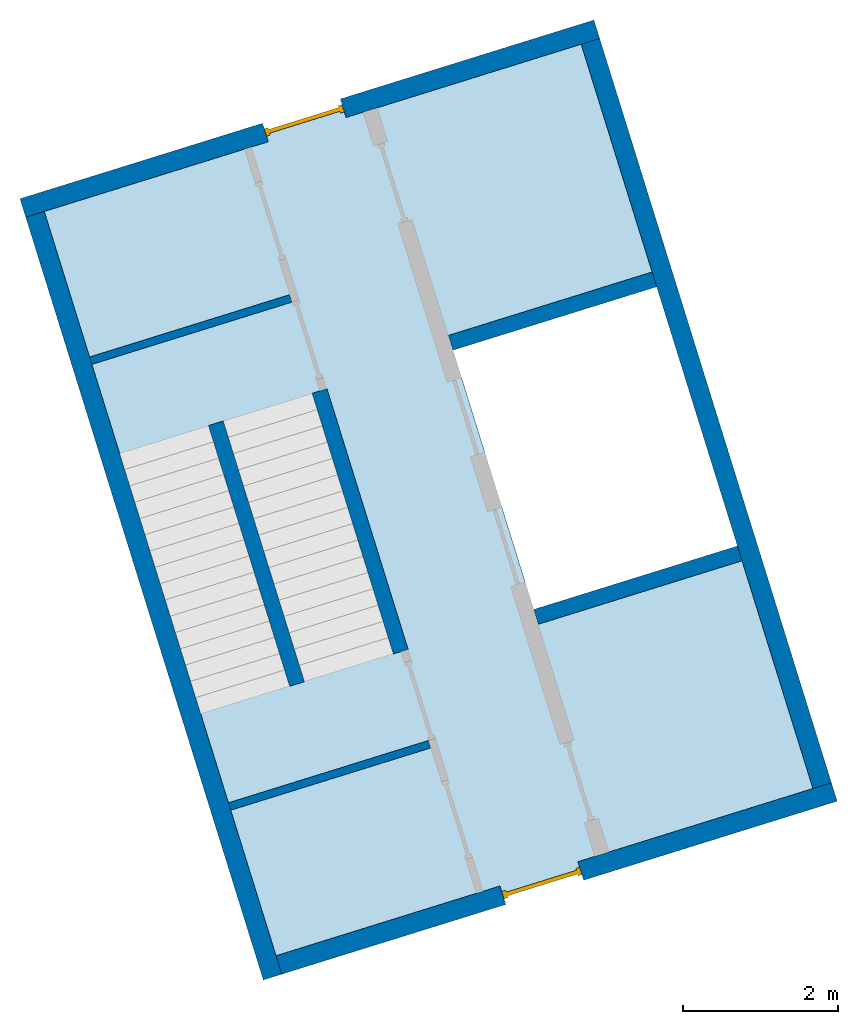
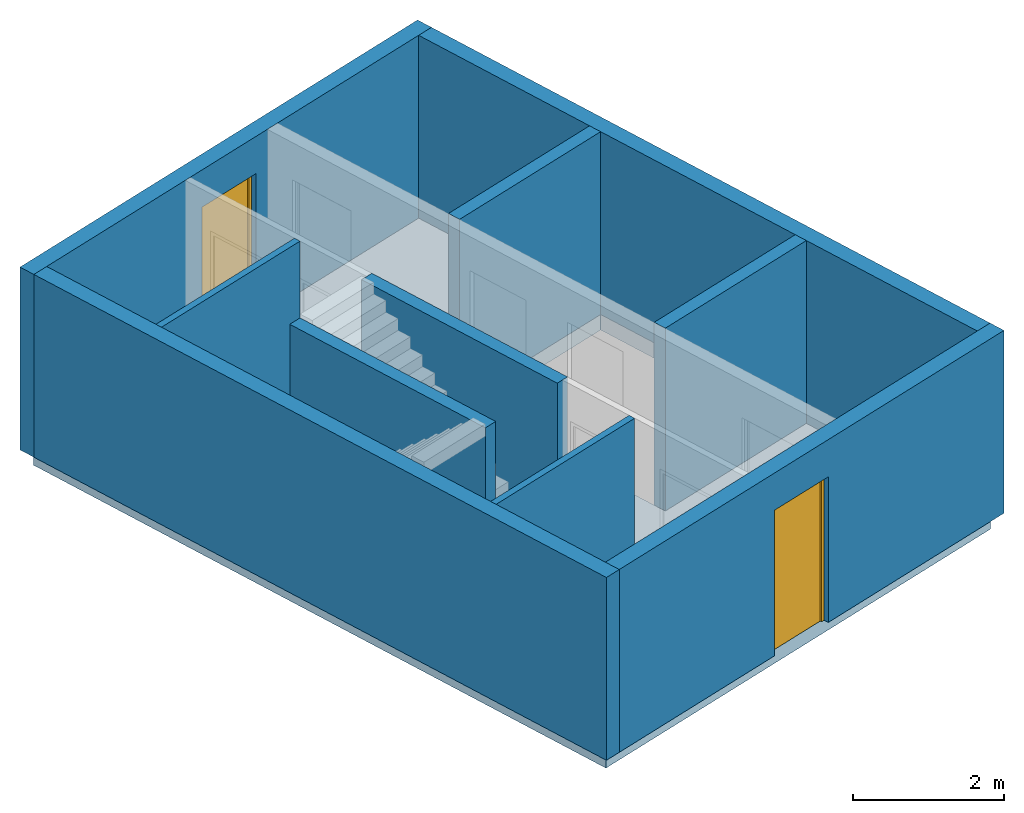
# One storey, part 1 of 3: 10 walls, 2 doors, 1 slab, 4 openings.
"""IFC4 building model written with IfcOpenShell, lengths in metres."""

from ifc_helpers import new_model, entity, si_unit, converted_unit, direction, frame, origin, place, context, subcontext, project, spatial, indexed_curve, outline, extrude, polygons, source, transform, mapped, material, constituent, constituent_set, type_object, type_shapes, element, fill, save


model = new_model("IFC4")

# Units and contexts
model_context = context("Model", 3, precision=1e-05, world=origin(), true_north=direction((6.12323399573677e-17, 1.0)))
body_context = subcontext(model_context, "Body", "Model", "MODEL_VIEW")
ifc_project = project(units=[si_unit("LENGTHUNIT", "METRE"), si_unit("AREAUNIT", "SQUARE_METRE"), si_unit("VOLUMEUNIT", "CUBIC_METRE"), converted_unit("PLANEANGLEUNIT", "DEGREE", entity("IfcPlaneAngleMeasure", 0.0174532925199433), si_unit("PLANEANGLEUNIT", "RADIAN"), dimensions=[0, 0, 0, 0, 0, 0, 0])], contexts=[model_context])

# Site, building, storey
site_placement = place(None, frame((13.1347999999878, 11.9886000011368, 0.0), z_axis=(0.0, 0.0, 1.0), x_axis=(0.954770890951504, 0.297342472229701, 0.0)))
site = spatial("IfcSite", under=ifc_project, at=site_placement, Name="Schiehaven", CompositionType="ELEMENT")
building_placement = place(site_placement, origin())
building = spatial("IfcBuilding", under=site, at=building_placement, Name="VORM huis", CompositionType="ELEMENT")
storey_placement = place(building_placement, frame((0.0, 0.0, -3.2)))
storey = spatial("IfcBuildingStorey", under=building, at=storey_placement, Name="-1 kelder", CompositionType="ELEMENT", Elevation=-3.2)

# Slab, opening
ifc_material_1 = material(Name="beton_gewapend_ihw", Category="Miscellaneous")
slab_type = type_object("IfcSlabType", Name="Floor:13_FL_funderingvloer 250mm", PredefinedType="FLOOR", material=ifc_material_1)
slab_placement = place(storey_placement, origin())
slab = element("IfcSlab", 1, at=slab_placement, inside=storey, type_object=slab_type, material=ifc_material_1, Name="Funderingvloer", ObjectType="Vloer", PredefinedType="FLOOR", context=body_context, shape_type="SweptSolid", body=[
    extrude(outline(indexed_curve([(-3.75000000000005, -5.14999999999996), (3.75000000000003, -5.14999999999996), (3.75000000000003, 5.14999999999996), (-3.75000000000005, 5.14999999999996), (-3.75000000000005, -5.14999999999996)], self_intersect=False), holes=[indexed_curve([(-3.62500000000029, 1.75000000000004), (-0.875000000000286, 1.75000000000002), (-0.875000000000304, -1.74999999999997), (-3.62500000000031, -1.74999999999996), (-3.62500000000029, 1.75000000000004)], self_intersect=False)]), frame((68.7500000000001, 17.0499999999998, -0.25), z_axis=(0.0, 0.0, 1.0), x_axis=(-1.0, 0.0, 0.0)), (0.0, 0.0, 1.0), 0.25),
])
opening_1_placement = place(slab_placement, origin())
element("IfcOpeningElement", 2, at=opening_1_placement, cuts=slab, Name="Funderingvloer", PredefinedType="OPENING", context=body_context, shape_type="SweptSolid", body=[
    extrude(outline(indexed_curve([(-1.75, -1.375), (1.75, -1.375), (1.75, 1.37500000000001), (-1.75, 1.37500000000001), (-1.75, -1.375)], self_intersect=False)), frame((71.0, 17.0499999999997, -0.25), z_axis=(0.0, 0.0, 1.0), x_axis=(0.0, 1.0, 0.0)), (0.0, 0.0, 1.0), 0.25),
])

# Walls
wall_type_1 = type_object("IfcWallType", Name="Basic Wall:28_WA_skelet_wand 250mm_gen", PredefinedType="STANDARD")
wall_1_placement = place(storey_placement, frame((72.5000000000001, 22.0749999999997, 0.0), z_axis=(0.0, 0.0, 1.0), x_axis=(0.0, -1.0, 0.0)))
element("IfcWall", 3, at=wall_1_placement, inside=storey, type_object=wall_type_1, material=ifc_material_1, Name="Constructieve wand", ObjectType="Wand", PredefinedType="NOTDEFINED", context=body_context, shape_type="SweptSolid", body=[
    extrude(outline(indexed_curve([(10.0499999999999, 0.124999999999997), (-1.06670372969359e-15, 0.124999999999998), (1.06670372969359e-15, -0.124999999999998), (10.0499999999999, -0.124999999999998), (10.0499999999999, 0.124999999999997)], self_intersect=False)), origin(), (0.0, 0.0, 1.0), 2.95),
])
wall_2_placement = place(storey_placement, frame((65.0, 11.7749999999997, 0.0), z_axis=(0.0, 0.0, 1.0), x_axis=(0.0, 1.0, 0.0)))
element("IfcWall", 4, at=wall_2_placement, inside=storey, type_object=wall_type_1, material=ifc_material_1, Name="Constructieve wand", ObjectType="Wand", PredefinedType="NOTDEFINED", context=body_context, shape_type="SweptSolid", body=[
    extrude(outline(indexed_curve([(10.3, 0.124999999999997), (-1.47058987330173e-15, 0.124999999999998), (-6.95144385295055e-16, -0.124999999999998), (10.3, -0.124999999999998), (10.3, 0.124999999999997)], self_intersect=False)), origin(), (0.0, 0.0, 1.0), 2.95),
])

# Wall, opening, door
wall_3_placement = place(storey_placement, frame((65.125, 11.8999999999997, 0.0)))
wall_3 = element("IfcWall", 5, at=wall_3_placement, inside=storey, type_object=wall_type_1, material=ifc_material_1, Name="Constructieve wand", ObjectType="Wand", PredefinedType="NOTDEFINED", context=body_context, shape_type="Tessellation", body=[
    polygons([(-1.2189769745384e-14, -0.125, 0.0), (3.02500000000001, -0.125, 0.0), (3.02500000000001, -0.125, 2.34999999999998), (4.07500000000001, -0.125, 2.34999999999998), (4.07500000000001, -0.125, 0.0), (7.49999999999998, -0.125, 0.0), (7.49999999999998, -0.125, 2.95), (-1.2189769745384e-14, -0.125, 2.95), (3.02500000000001, 0.125, 2.34999999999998), (3.02500000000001, 0.125, 0.0), (-1.28164288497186e-14, 0.125, 0.0), (4.50944521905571e-15, 0.125, 2.95), (7.24999999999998, 0.125, 2.95), (7.49999999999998, 0.125, 2.95), (7.49999999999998, 0.125, 0.0), (7.24999999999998, 0.125, 0.0), (4.07500000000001, 0.125, 0.0), (4.07500000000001, 0.125, 2.34999999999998)], [[[1, 2, 3, 4, 5, 6, 7, 8]], [[9, 10, 11, 12, 13, 14, 15, 16, 17, 18]], [[11, 10, 2, 1]], [[8, 7, 14, 13, 12]], [[1, 8, 12, 11]], [[7, 6, 15, 14]], [[5, 4, 18, 17]], [[3, 2, 10, 9]], [[4, 3, 9, 18]], [[17, 16, 15, 6, 5]]], closed=True),
])
opening_2_placement = place(wall_3_placement, frame((3.02500000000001, -0.125000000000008, 0.0)))
opening_2 = element("IfcOpeningElement", 6, at=opening_2_placement, cuts=wall_3, Name="Vluchtdeur", PredefinedType="OPENING", context=body_context, shape_type="SweptSolid", body=[
    extrude(outline(indexed_curve([(2.34999999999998, 1.05), (0.0, 1.05), (0.0, -4.24117840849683e-30), (2.34999999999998, -4.24117840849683e-30), (2.34999999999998, 1.05)], self_intersect=False)), frame((0.0, 0.0, 0.0), z_axis=(0.0, 1.0, 0.0), x_axis=(0.0, 0.0, 1.0)), (0.0, 0.0, 1.0), 0.25),
])
ifc_material_2 = material(Name="PD_a_binnenwandopeningen", Category="Miscellaneous")
ifc_constituent_1 = constituent(ifc_material_2, Name="PD_a_binnenwandopeningen", Category="Miscellaneous")
ifc_material_3 = material(Name="metaal_aluminium_ntb", Category="Miscellaneous")
ifc_constituent_2 = constituent(ifc_material_3, Name="metaal_aluminium_ntb", Category="Miscellaneous")
ifc_constituent_set_1 = constituent_set(constituents=[ifc_constituent_1, ifc_constituent_2])
ifc_constituent_3 = constituent(ifc_material_2, Name="PD_a_binnenwandopeningen", Category="Miscellaneous")
ifc_constituent_4 = constituent(ifc_material_3, Name="Panel", Category="Miscellaneous")
ifc_constituent_set_2 = constituent_set(constituents=[ifc_constituent_3, ifc_constituent_4])
door_type = type_object("IfcDoorType", Name="32_DO_binnendeur enkel:binnendeur zelfsluitend 30min", OperationType="NOTDEFINED", PredefinedType="DOOR", material=ifc_constituent_set_2)
shared_shape = source(origin(), body_context, "Body", "SweptSolid", [
    extrude(outline(indexed_curve([(-1.16249999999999, -0.525000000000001), (1.18749999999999, -0.525), (1.18749999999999, 0.525000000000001), (-1.16249999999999, 0.525000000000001), (-1.16249999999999, 0.475), (1.13749999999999, 0.475), (1.13749999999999, -0.475), (-1.16249999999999, -0.475), (-1.16249999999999, -0.525000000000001)], self_intersect=False)), frame((0.525000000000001, 0.0749999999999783, 1.16249999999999), z_axis=(0.0, 1.0, 0.0), x_axis=(0.0, 0.0, 1.0)), (0.0, 0.0, 1.0), 0.1),
    extrude(outline(indexed_curve([(-0.025, -0.475), (0.025, -0.475), (0.025, 0.475), (-0.025, 0.475), (-0.025, -0.475)], self_intersect=False)), frame((0.525000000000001, 0.12499999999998, 0.0), z_axis=(0.0, 0.0, 1.0), x_axis=(0.0, 1.0, 0.0)), (0.0, 0.0, 1.0), 2.29999999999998),
])
type_shapes(door_type, [shared_shape])
door_1_placement = place(opening_2_placement, origin())
door_1 = element("IfcDoor", 7, at=door_1_placement, inside=storey, type_object=door_type, material=ifc_constituent_set_1, Name="Vluchtdeur", ObjectType="Deur", OperationType="NOTDEFINED", OverallHeight=2.34999999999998, OverallWidth=1.05, PredefinedType="DOOR", context=body_context, shape_type="MappedRepresentation", body=[
    mapped(shared_shape, transform((0.0, 0.0, 0.0), scale=1.0)),
])
fill(opening_2, door_1)

wall_4_placement = place(storey_placement, frame((64.8750000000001, 22.1999999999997, 0.0)))
wall_4 = element("IfcWall", 8, at=wall_4_placement, inside=storey, type_object=wall_type_1, material=ifc_material_1, Name="Constructieve wand", ObjectType="Wand", PredefinedType="NOTDEFINED", context=body_context, shape_type="Tessellation", body=[
    polygons([(4.3249999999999, -0.124999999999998, 2.34999999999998), (4.3249999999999, -0.124999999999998, 0.0), (7.49999999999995, -0.124999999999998, 0.0), (7.74999999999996, -0.124999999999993, 0.0), (7.74999999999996, -0.124999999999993, 2.95), (7.49999999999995, -0.124999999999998, 2.95), (0.250000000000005, -0.124999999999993, 2.95), (1.6598752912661e-15, -0.124999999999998, 2.95), (1.6598752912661e-15, -0.124999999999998, 0.0), (0.250000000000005, -0.124999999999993, 0.0), (3.2749999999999, -0.124999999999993, 0.0), (3.2749999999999, -0.124999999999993, 2.34999999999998), (7.74999999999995, 0.125000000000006, 0.0), (4.3249999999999, 0.125000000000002, 0.0), (4.3249999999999, 0.125000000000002, 2.34999999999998), (3.2749999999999, 0.125000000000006, 2.34999999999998), (3.2749999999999, 0.125000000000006, 0.0), (1.62575232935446e-14, 0.125000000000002, 0.0), (1.62575232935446e-14, 0.125000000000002, 2.95), (7.74999999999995, 0.125000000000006, 2.95)], [[[1, 2, 3, 4, 5, 6, 7, 8, 9, 10, 11, 12]], [[13, 14, 15, 16, 17, 18, 19, 20]], [[11, 10, 9, 18, 17]], [[8, 7, 6, 5, 20, 19]], [[5, 4, 13, 20]], [[9, 8, 19, 18]], [[17, 16, 12, 11]], [[15, 14, 2, 1]], [[16, 15, 1, 12]], [[4, 3, 2, 14, 13]]], closed=True),
])
opening_3_placement = place(wall_4_placement, frame((4.32499999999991, 0.124999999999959, 0.0)))
opening_3 = element("IfcOpeningElement", 9, at=opening_3_placement, cuts=wall_4, Name="Vluchtdeur", PredefinedType="OPENING", context=body_context, shape_type="SweptSolid", body=[
    extrude(outline(indexed_curve([(2.34999999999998, 1.05), (0.0, 1.05), (0.0, 0.0), (2.34999999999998, 0.0), (2.34999999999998, 1.05)], self_intersect=False)), frame((0.0, 0.0, 0.0), z_axis=(0.0, -1.0, 0.0), x_axis=(0.0, 0.0, 1.0)), (0.0, 0.0, 1.0), 0.25),
])
ifc_constituent_5 = constituent(ifc_material_2, Name="PD_a_binnenwandopeningen", Category="Miscellaneous")
ifc_constituent_6 = constituent(ifc_material_3, Name="metaal_aluminium_ntb", Category="Miscellaneous")
ifc_constituent_set_3 = constituent_set(constituents=[ifc_constituent_5, ifc_constituent_6])
door_2_placement = place(opening_3_placement, frame((0.0, 0.0, 0.0), z_axis=(0.0, 0.0, 1.0), x_axis=(-1.0, 0.0, 0.0)))
door_2 = element("IfcDoor", 10, at=door_2_placement, inside=storey, type_object=door_type, material=ifc_constituent_set_3, Name="Vluchtdeur", ObjectType="Deur", OperationType="NOTDEFINED", OverallHeight=2.34999999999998, OverallWidth=1.05, PredefinedType="DOOR", context=body_context, shape_type="MappedRepresentation", body=[
    mapped(shared_shape, transform((0.0, 0.0, 0.0), scale=1.0)),
])
fill(opening_3, door_2)

# Walls
ifc_material_4 = material(Name="beton_gewapend_prefab-element", Category="Miscellaneous")
wall_type_2 = type_object("IfcWallType", Name="Basic Wall:28_WA_skelet_wand 200mm_gen", PredefinedType="STANDARD")
wall_5_placement = place(storey_placement, frame((72.3750000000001, 18.8999999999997, 0.0), z_axis=(0.0, 0.0, 1.0), x_axis=(-1.0, 0.0, 0.0)))
element("IfcWall", 11, at=wall_5_placement, inside=storey, type_object=wall_type_2, material=ifc_material_4, Name="Constructieve wand", ObjectType="Wand", PredefinedType="NOTDEFINED", context=body_context, shape_type="SweptSolid", body=[
    extrude(outline(indexed_curve([(2.74999999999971, 0.1), (-6.75857404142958e-16, 0.100000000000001), (6.75857404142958e-16, -0.100000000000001), (2.74999999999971, -0.100000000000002), (2.74999999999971, 0.1)], self_intersect=False)), origin(), (0.0, 0.0, 1.0), 2.95),
])
wall_6_placement = place(storey_placement, frame((69.6250000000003, 15.1999999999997, 0.0)))
element("IfcWall", 12, at=wall_6_placement, inside=storey, type_object=wall_type_2, material=ifc_material_4, Name="Constructieve wand", ObjectType="Wand", PredefinedType="NOTDEFINED", context=body_context, shape_type="SweptSolid", body=[
    extrude(outline(indexed_curve([(2.7499999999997, 0.100000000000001), (-5.29850812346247e-16, 0.100000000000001), (5.29850812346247e-16, -0.100000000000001), (2.7499999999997, -0.100000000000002), (2.7499999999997, 0.100000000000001)], self_intersect=False)), origin(), (0.0, 0.0, 1.0), 2.95),
])
wall_7_placement = place(storey_placement, frame((67.8250000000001, 18.8099999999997, 0.0), z_axis=(0.0, 0.0, 1.0), x_axis=(0.0, -1.0, 0.0)))
element("IfcWall", 13, at=wall_7_placement, inside=storey, type_object=wall_type_2, material=ifc_material_4, Name="Constructieve wand", ObjectType="Wand", PredefinedType="NOTDEFINED", context=body_context, shape_type="SweptSolid", body=[
    extrude(outline(indexed_curve([(3.52, 0.100000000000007), (-8.37483519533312e-16, 0.100000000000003), (8.37483519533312e-16, -0.100000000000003), (3.52, -0.0999999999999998), (3.52, 0.100000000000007)], self_intersect=False)), origin(), (0.0, 0.0, 1.0), 2.95),
])
wall_8_placement = place(storey_placement, frame((66.4250000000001, 18.8099999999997, 0.0), z_axis=(0.0, 0.0, 1.0), x_axis=(0.0, -1.0, 0.0)))
element("IfcWall", 14, at=wall_8_placement, inside=storey, type_object=wall_type_2, material=ifc_material_4, Name="Constructieve wand", ObjectType="Wand", PredefinedType="NOTDEFINED", context=body_context, shape_type="SweptSolid", body=[
    extrude(outline(indexed_curve([(3.52, 0.100000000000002), (-9.60536602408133e-16, 0.100000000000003), (9.60536602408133e-16, -0.100000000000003), (3.52, -0.100000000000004), (3.52, 0.100000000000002)], self_intersect=False)), origin(), (0.0, 0.0, 1.0), 2.95),
])

# Wall, opening
ifc_material_5 = material(Name="ntb_ntb_ntb", Category="Miscellaneous")
wall_type_3 = type_object("IfcWallType", Name="Basic Wall:22_WA_afbouw_binnenwand 100mm_gen", PredefinedType="STANDARD")
wall_9_placement = place(storey_placement, frame((65.1250000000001, 14.0399999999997, 0.0)))
wall_9 = element("IfcWall", 15, at=wall_9_placement, inside=storey, type_object=wall_type_3, material=ifc_material_5, Name="Binnenwand", ObjectType="Wand", PredefinedType="NOTDEFINED", context=body_context, shape_type="Tessellation", body=[
    polygons([(2.99546224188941e-15, -0.0500000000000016, 0.0), (2.7, -0.0500000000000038, 0.0), (2.7, -0.0500000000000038, 2.95), (2.99546224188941e-15, -0.0500000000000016, 2.95), (2.27380547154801e-15, 0.0500000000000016, 0.0), (2.27380547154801e-15, 0.0500000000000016, 2.95), (2.7, 0.0499999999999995, 2.95), (2.7, 0.0499999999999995, 2.34999999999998), (2.7, 0.0499999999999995, 0.0)], [[[1, 2, 3, 4]], [[5, 6, 7, 8, 9]], [[2, 1, 5, 9]], [[4, 3, 7, 6]], [[1, 4, 6, 5]], [[3, 2, 9, 8, 7]]], closed=True),
])
opening_4_placement = place(wall_9_placement, origin())
element("IfcOpeningElement", 16, at=opening_4_placement, cuts=wall_9, Name="Vluchtdeur", PredefinedType="OPENING", context=body_context, shape_type="SweptSolid", body=[
    extrude(outline(indexed_curve([(-0.0499999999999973, -1.17499999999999), (0.050000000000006, -1.17499999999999), (0.050000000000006, 1.17499999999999), (-0.0499999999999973, 1.17499999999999), (-0.0499999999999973, -1.17499999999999)], self_intersect=False)), frame((2.74999999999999, 0.049999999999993, 1.17499999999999), z_axis=(0.0, 1.0, 0.0), x_axis=(1.0, 0.0, 0.0)), (0.0, 0.0, 1.0), 1.05),
])

# Wall
wall_10_placement = place(storey_placement, frame((65.1250000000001, 20.0599999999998, 0.0)))
element("IfcWall", 17, at=wall_10_placement, inside=storey, type_object=wall_type_3, material=ifc_material_5, Name="Binnenwand", ObjectType="Wand", PredefinedType="NOTDEFINED", context=body_context, shape_type="SweptSolid", body=[
    extrude(outline(indexed_curve([(2.70000000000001, 0.0500000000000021), (-1.6902242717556e-16, 0.0500000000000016), (1.6902242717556e-16, -0.0500000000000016), (2.70000000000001, -0.0500000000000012), (2.70000000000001, 0.0500000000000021)], self_intersect=False)), origin(), (0.0, 0.0, 1.0), 2.95),
])

save(model, "model.ifc")
